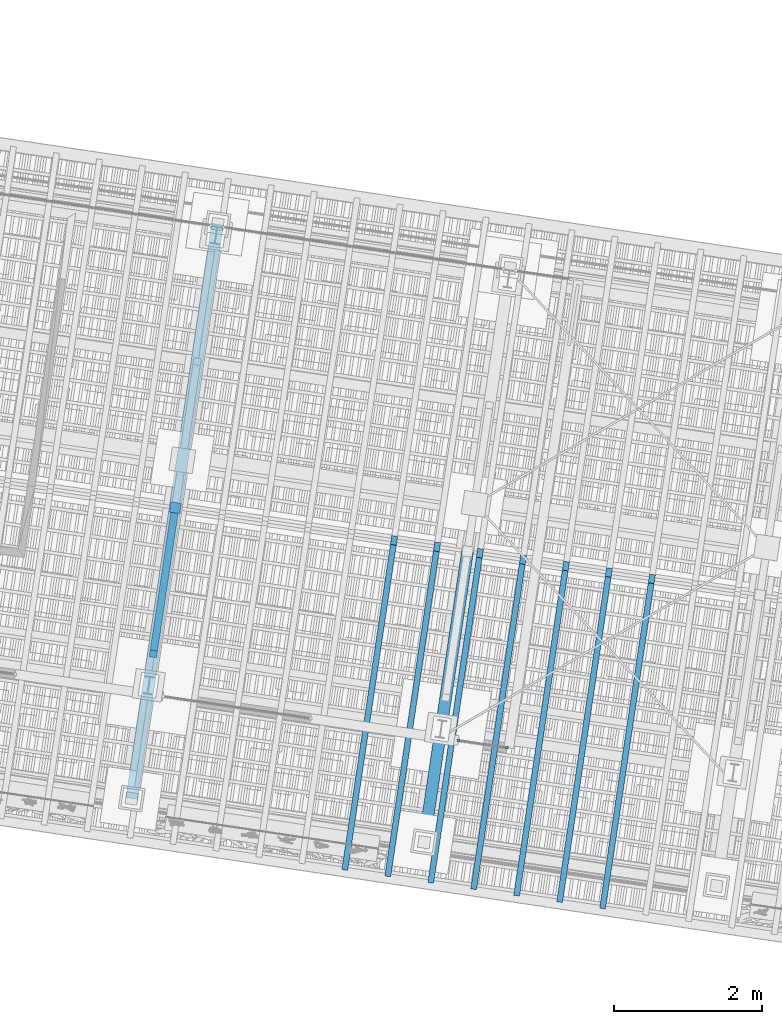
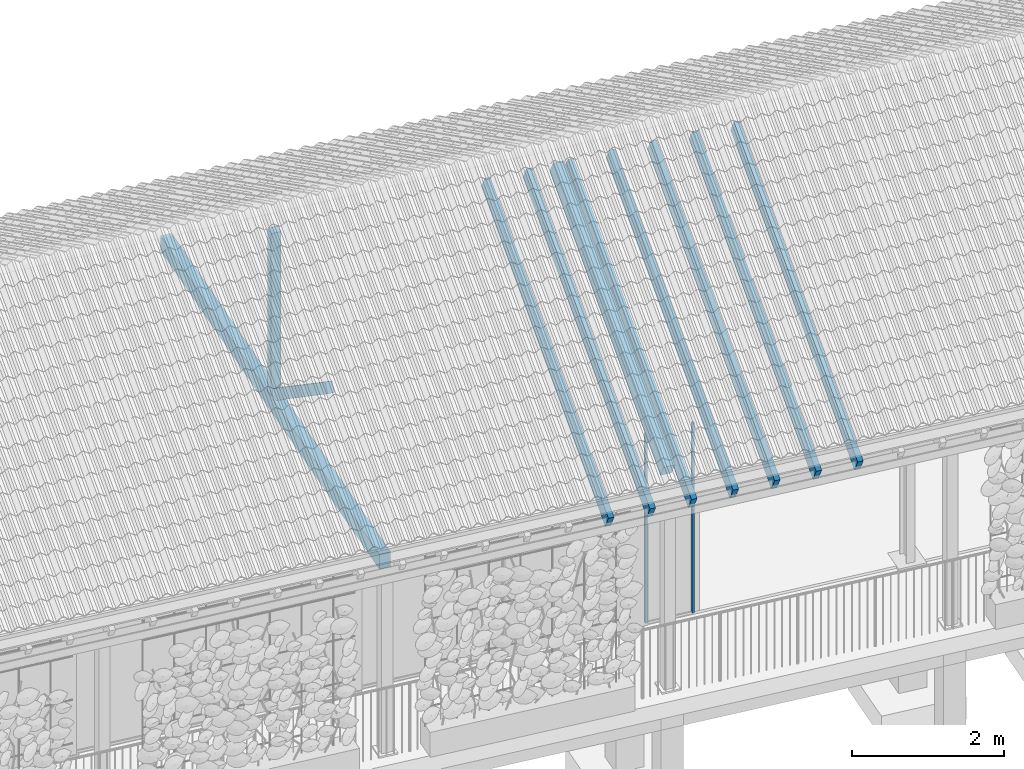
# One storey, part 95 of 131: 12 members, 1 beam, 1 element without a shape of its own.
"""IFC4 building model written with IfcOpenShell, lengths in metres."""

from ifc_helpers import new_model, si_unit, direction, frame, origin_with_axes, place, context, subcontext, project, spatial, rectangle, extrude, material, material_profile, profile_set, profile_usage, type_object, element, aggregate, save


model = new_model("IFC4")

# Units and contexts
model_context = context("Model", 3, precision=1e-05, world=origin_with_axes(), true_north=direction((0.0, 1.0)))
body_context = subcontext(model_context, "Body", "Model", "MODEL_VIEW")
ifc_project = project(units=[si_unit("VOLUMEUNIT", "CUBIC_METRE"), si_unit("LENGTHUNIT", "METRE"), si_unit("AREAUNIT", "SQUARE_METRE")], contexts=[model_context])

# Site, building, storey
site_placement = place(None, origin_with_axes())
site = spatial("IfcSite", under=ifc_project, at=site_placement, Name="Lares · Rua das Mercês · artigo 4771")
building_placement = place(site_placement, frame((15.0, 9.7, 15.8), z_axis=(0.0, 0.0, 1.0), x_axis=(0.989015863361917, -0.147809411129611, 0.0)))
building = spatial("IfcBuilding", under=site, at=building_placement, Name="Casa Sobreposta")
storey_placement = place(building_placement, origin_with_axes())
storey = spatial("IfcBuildingStorey", under=building, at=storey_placement, Name="00 · Habitação e estacionamento", Elevation=15.8)

# Members
ifc_material_1 = material(Name="Aço pintado / Stahl lackiert", Category="steel")
ifc_material_profile_1 = material_profile(ifc_material_1, rectangle(XDim=0.035, YDim=0.035))
ifc_profile_set_1 = profile_set([ifc_material_profile_1], Name="R0.035")
ifc_profile_usage_1 = profile_usage(ifc_profile_set_1)
member_type_1 = type_object("IfcMemberType", Name="R0.035 / steel", PredefinedType="NOTDEFINED", material=ifc_profile_set_1)
member_1_placement = place(storey_placement, frame((24.256, 0.0, 0.0), z_axis=(0.0, 0.0, 1.0), x_axis=(1.0, 0.0, 0.0)))
element("IfcMember", 1, at=member_1_placement, inside=storey, type_object=member_type_1, material=ifc_profile_usage_1, Name="Folha de correr sul 12 · montante", context=body_context, shape_type="SweptSolid", body=[
    extrude(rectangle(XDim=0.035, YDim=0.035), origin_with_axes(), (0.0, 0.0, 1.0), 3.05),
])
ifc_profile_usage_2 = profile_usage(ifc_profile_set_1)
member_2_placement = place(storey_placement, frame((24.92, 0.0, 0.0), z_axis=(0.0, 0.0, 1.0), x_axis=(1.0, 0.0, 0.0)))
element("IfcMember", 2, at=member_2_placement, inside=storey, type_object=member_type_1, material=ifc_profile_usage_2, Name="Folha de correr sul 12 · montante", context=body_context, shape_type="SweptSolid", body=[
    extrude(rectangle(XDim=0.035, YDim=0.035), origin_with_axes(), (0.0, 0.0, 1.0), 3.05),
])

# Roof, beam, members
ifc_material_2 = material(Name="Madeira / Bauholz", Category="wood")
roof_placement = place(storey_placement, origin_with_axes())
roof = element("IfcRoof", 3, at=roof_placement, inside=storey, material=ifc_material_2, Name="Cobertura de telha · duas águas 30 graus", PredefinedType="GABLE_ROOF")
ifc_material_profile_2 = material_profile(ifc_material_2, rectangle(XDim=0.16, YDim=0.24))
ifc_profile_set_2 = profile_set([ifc_material_profile_2], Name="TIMBER0.160x0.240")
ifc_profile_usage_3 = profile_usage(ifc_profile_set_2)
beam_type = type_object("IfcBeamType", Name="TIMBER0.160x0.240 / timber", PredefinedType="NOTDEFINED", material=ifc_profile_set_2)
beam_placement = place(roof_placement, frame((20.0, -1.43, 3.02), z_axis=(0.0, 1.0, 0.0), x_axis=(1.0, 0.0, 0.0)))
beam = element("IfcBeam", 4, at=beam_placement, type_object=beam_type, material=ifc_profile_usage_3, Name="Tesoura · tirante inferior", context=body_context, shape_type="SweptSolid", body=[
    extrude(rectangle(XDim=0.16, YDim=0.24), origin_with_axes(), (0.0, 0.0, 1.0), 7.86),
])
ifc_material_profile_3 = material_profile(ifc_material_2, rectangle(XDim=0.16, YDim=0.24))
ifc_profile_set_3 = profile_set([ifc_material_profile_3], Name="TIMBER0.160x0.240")
ifc_profile_usage_4 = profile_usage(ifc_profile_set_3)
member_type_2 = type_object("IfcMemberType", Name="TIMBER0.160x0.240 / timber", PredefinedType="NOTDEFINED", material=ifc_profile_set_3)
member_3_placement = place(roof_placement, frame((24.0, -1.43, 3.44635462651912), z_axis=(0.0, 0.866025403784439, 0.5), x_axis=(1.0, 0.0, 0.0)))
member_3 = element("IfcMember", 5, at=member_3_placement, type_object=member_type_2, material=ifc_profile_usage_4, Name="Tesoura · perna", context=body_context, shape_type="SweptSolid", body=[
    extrude(rectangle(XDim=0.16, YDim=0.24), origin_with_axes(), (0.0, 0.0, 1.0), 4.59570814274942),
])
ifc_material_profile_4 = material_profile(ifc_material_2, rectangle(XDim=0.14, YDim=0.14))
ifc_profile_set_4 = profile_set([ifc_material_profile_4], Name="TIMBER0.140x0.140")
ifc_profile_usage_5 = profile_usage(ifc_profile_set_4)
member_type_3 = type_object("IfcMemberType", Name="TIMBER0.140x0.140 / timber", PredefinedType="NOTDEFINED", material=ifc_profile_set_4)
member_4_placement = place(roof_placement, frame((20.0, 2.55, 3.02), z_axis=(0.0, 0.0, 1.0), x_axis=(1.0, 0.0, 0.0)))
member_4 = element("IfcMember", 6, at=member_4_placement, type_object=member_type_3, material=ifc_profile_usage_5, Name="Tesoura · pendural", context=body_context, shape_type="SweptSolid", body=[
    extrude(rectangle(XDim=0.14, YDim=0.14), origin_with_axes(), (0.0, 0.0, 1.0), 2.72420869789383),
])
ifc_material_profile_5 = material_profile(ifc_material_2, rectangle(XDim=0.1, YDim=0.16))
ifc_profile_set_5 = profile_set([ifc_material_profile_5], Name="TIMBER0.100x0.160")
ifc_profile_usage_6 = profile_usage(ifc_profile_set_5)
member_type_4 = type_object("IfcMemberType", Name="TIMBER0.100x0.160 / timber", PredefinedType="NOTDEFINED", material=ifc_profile_set_5)
member_5_placement = place(roof_placement, frame((20.0, 2.55, 3.1), z_axis=(0.0, -0.816439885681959, 0.577430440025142), x_axis=(-1.0, 0.0, 0.0)))
member_5 = element("IfcMember", 7, at=member_5_placement, type_object=member_type_4, material=ifc_profile_usage_6, Name="Tesoura · escora", context=body_context, shape_type="SweptSolid", body=[
    extrude(rectangle(XDim=0.1, YDim=0.16), origin_with_axes(), (0.0, 0.0, 1.0), 2.44965984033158),
])
ifc_material_profile_6 = material_profile(ifc_material_2, rectangle(XDim=0.08, YDim=0.24))
ifc_profile_set_6 = profile_set([ifc_material_profile_6], Name="TIMBER0.080x0.240")
ifc_profile_usage_7 = profile_usage(ifc_profile_set_6)
member_type_5 = type_object("IfcMemberType", Name="TIMBER0.080x0.240 / timber", PredefinedType="NOTDEFINED", material=ifc_profile_set_6)
member_6_placement = place(roof_placement, frame((22.9939393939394, -1.9, 3.181), z_axis=(0.0, 0.866025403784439, 0.5), x_axis=(1.0, 0.0, 0.0)))
member_6 = element("IfcMember", 8, at=member_6_placement, type_object=member_type_5, material=ifc_profile_usage_7, Name="Cobertura · caibro", context=body_context, shape_type="SweptSolid", body=[
    extrude(rectangle(XDim=0.08, YDim=0.24), origin_with_axes(), (0.0, 0.0, 1.0), 5.13841739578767),
])
ifc_profile_usage_8 = profile_usage(ifc_profile_set_6)
member_7_placement = place(roof_placement, frame((23.5818181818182, -1.9, 3.181), z_axis=(0.0, 0.866025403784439, 0.5), x_axis=(1.0, 0.0, 0.0)))
member_7 = element("IfcMember", 9, at=member_7_placement, type_object=member_type_5, material=ifc_profile_usage_8, Name="Cobertura · caibro", context=body_context, shape_type="SweptSolid", body=[
    extrude(rectangle(XDim=0.08, YDim=0.24), origin_with_axes(), (0.0, 0.0, 1.0), 5.13841739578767),
])
ifc_profile_usage_9 = profile_usage(ifc_profile_set_6)
member_8_placement = place(roof_placement, frame((24.169696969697, -1.9, 3.181), z_axis=(0.0, 0.866025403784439, 0.5), x_axis=(1.0, 0.0, 0.0)))
member_8 = element("IfcMember", 10, at=member_8_placement, type_object=member_type_5, material=ifc_profile_usage_9, Name="Cobertura · caibro", context=body_context, shape_type="SweptSolid", body=[
    extrude(rectangle(XDim=0.08, YDim=0.24), origin_with_axes(), (0.0, 0.0, 1.0), 5.13841739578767),
])
ifc_profile_usage_10 = profile_usage(ifc_profile_set_6)
member_9_placement = place(roof_placement, frame((24.7575757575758, -1.9, 3.181), z_axis=(0.0, 0.866025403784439, 0.5), x_axis=(1.0, 0.0, 0.0)))
member_9 = element("IfcMember", 11, at=member_9_placement, type_object=member_type_5, material=ifc_profile_usage_10, Name="Cobertura · caibro", context=body_context, shape_type="SweptSolid", body=[
    extrude(rectangle(XDim=0.08, YDim=0.24), origin_with_axes(), (0.0, 0.0, 1.0), 5.13841739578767),
])
ifc_profile_usage_11 = profile_usage(ifc_profile_set_6)
member_10_placement = place(roof_placement, frame((25.3454545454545, -1.9, 3.181), z_axis=(0.0, 0.866025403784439, 0.5), x_axis=(1.0, 0.0, 0.0)))
member_10 = element("IfcMember", 12, at=member_10_placement, type_object=member_type_5, material=ifc_profile_usage_11, Name="Cobertura · caibro", context=body_context, shape_type="SweptSolid", body=[
    extrude(rectangle(XDim=0.08, YDim=0.24), origin_with_axes(), (0.0, 0.0, 1.0), 5.13841739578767),
])
ifc_profile_usage_12 = profile_usage(ifc_profile_set_6)
member_11_placement = place(roof_placement, frame((25.9333333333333, -1.9, 3.181), z_axis=(0.0, 0.866025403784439, 0.5), x_axis=(1.0, 0.0, 0.0)))
member_11 = element("IfcMember", 13, at=member_11_placement, type_object=member_type_5, material=ifc_profile_usage_12, Name="Cobertura · caibro", context=body_context, shape_type="SweptSolid", body=[
    extrude(rectangle(XDim=0.08, YDim=0.24), origin_with_axes(), (0.0, 0.0, 1.0), 5.13841739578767),
])
ifc_profile_usage_13 = profile_usage(ifc_profile_set_6)
member_12_placement = place(roof_placement, frame((26.5212121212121, -1.9, 3.181), z_axis=(0.0, 0.866025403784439, 0.5), x_axis=(1.0, 0.0, 0.0)))
member_12 = element("IfcMember", 14, at=member_12_placement, type_object=member_type_5, material=ifc_profile_usage_13, Name="Cobertura · caibro", context=body_context, shape_type="SweptSolid", body=[
    extrude(rectangle(XDim=0.08, YDim=0.24), origin_with_axes(), (0.0, 0.0, 1.0), 5.13841739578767),
])
aggregate(roof, [beam, member_4, member_5, member_3, member_6, member_7, member_8, member_9, member_10, member_11, member_12])

save(model, "model.ifc")
